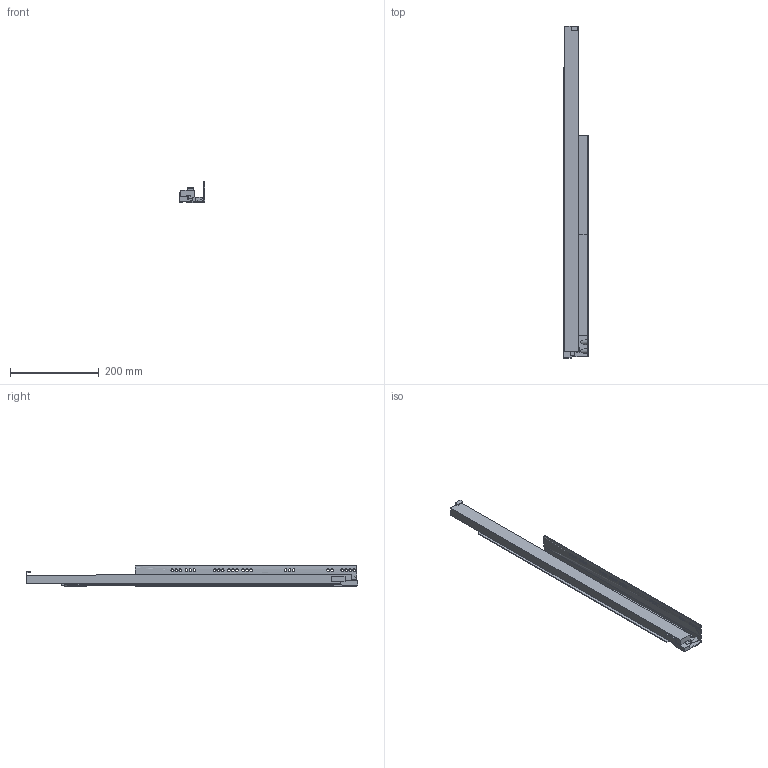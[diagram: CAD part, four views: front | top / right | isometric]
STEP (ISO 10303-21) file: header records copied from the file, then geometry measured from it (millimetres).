
FILE_DESCRIPTION (( 'STEP AP214' ), '1' );
FILE_NAME ('_IMOS_Dynapro_Softclose_D516_NL_750_RE.step', '2010-07-16T06:03:54', ( 'grass' ), ( '' ), 'SwSTEP 2.0', 'SolidWorks 2009', '' );
FILE_SCHEMA (( 'AUTOMOTIVE_DESIGN' ));
Length unit declared in the file: millimetre
Products named in the file (1): _IMOS_Dynapro_Softclose_D516_NL_750_RE
Bounding box: 57.08 x 750.07 x 47.91 mm (x, y, z)
Volume: 623206.7 mm3; surface area: 198254.9 mm2
Topology: 1 solids, 1 shells, 132 faces, 445 edges, 311 vertices
Faces by surface type: plane 77, cylinder 48, bspline 7
Entity records: 5713 total; most frequent: CARTESIAN_POINT 1603, ORIENTED_EDGE 882, DIRECTION 807, EDGE_CURVE 441, LINE 321, VECTOR 321, VERTEX_POINT 311, AXIS2_PLACEMENT_3D 243
